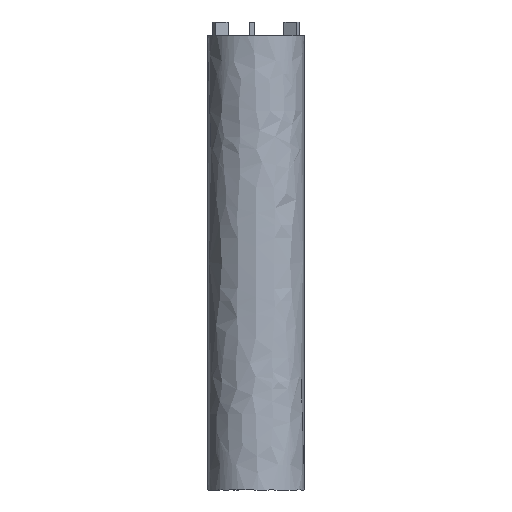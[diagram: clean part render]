
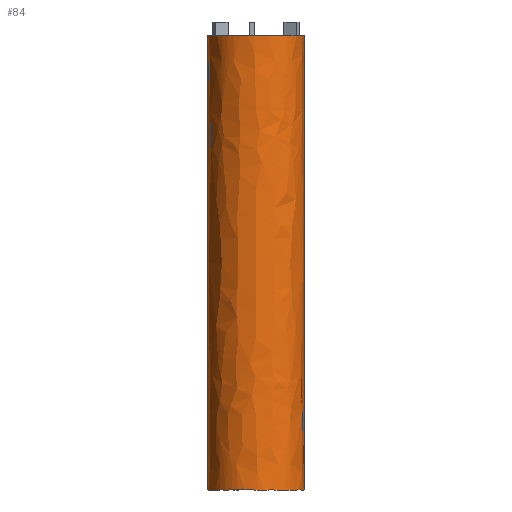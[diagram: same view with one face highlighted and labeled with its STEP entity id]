
A CAD part, front view. The second image highlights one B-rep face of the part: STEP entity #84.
In plain terms, the highlighted free-form (B-spline) face has degree [2, 2] with [5, 7] control points.
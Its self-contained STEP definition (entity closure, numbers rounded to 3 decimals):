
#84=ADVANCED_FACE('',(#132),#670,.T.);
#132=FACE_OUTER_BOUND('',#180,.T.);
#180=EDGE_LOOP('',(#242,#243,#244,#245));
#242=ORIENTED_EDGE('',*,*,#414,.F.);
#243=ORIENTED_EDGE('',*,*,#417,.T.);
#244=ORIENTED_EDGE('',*,*,#426,.F.);
#245=ORIENTED_EDGE('',*,*,#424,.F.);
#414=EDGE_CURVE('',#606,#612,#578,.T.);
#417=EDGE_CURVE('',#606,#609,#581,.T.);
#424=EDGE_CURVE('',#612,#613,#587,.T.);
#426=EDGE_CURVE('',#613,#609,#589,.T.);
#578=(
BOUNDED_CURVE()
B_SPLINE_CURVE(2,(#958,#959,#960,#961,#962),.UNSPECIFIED.,.F.,.F.)
B_SPLINE_CURVE_WITH_KNOTS((3,2,3),(-219.911,-164.934,
-109.956),.UNSPECIFIED.)
CURVE()
GEOMETRIC_REPRESENTATION_ITEM()
RATIONAL_B_SPLINE_CURVE((1.,0.707,1.,0.707,1.))
REPRESENTATION_ITEM('')
);
#581=(
BOUNDED_CURVE()
B_SPLINE_CURVE(2,(#971,#972,#973),.UNSPECIFIED.,.F.,.F.)
B_SPLINE_CURVE_WITH_KNOTS((3,3),(73.024,397.142),
 .UNSPECIFIED.)
CURVE()
GEOMETRIC_REPRESENTATION_ITEM()
RATIONAL_B_SPLINE_CURVE((1.,1.,1.))
REPRESENTATION_ITEM('')
);
#587=(
BOUNDED_CURVE()
B_SPLINE_CURVE(2,(#999,#1000,#1001),.UNSPECIFIED.,.F.,.F.)
B_SPLINE_CURVE_WITH_KNOTS((3,3),(73.024,397.142),
 .UNSPECIFIED.)
CURVE()
GEOMETRIC_REPRESENTATION_ITEM()
RATIONAL_B_SPLINE_CURVE((1.,1.,1.))
REPRESENTATION_ITEM('')
);
#589=(
BOUNDED_CURVE()
B_SPLINE_CURVE(2,(#1007,#1008,#1009,#1010,#1011),.UNSPECIFIED.,.F.,.F.)
B_SPLINE_CURVE_WITH_KNOTS((3,2,3),(109.956,164.934,219.911),
 .UNSPECIFIED.)
CURVE()
GEOMETRIC_REPRESENTATION_ITEM()
RATIONAL_B_SPLINE_CURVE((1.,0.707,1.,0.707,1.))
REPRESENTATION_ITEM('')
);
#606=VERTEX_POINT('',#950);
#609=VERTEX_POINT('',#953);
#612=VERTEX_POINT('',#956);
#613=VERTEX_POINT('',#957);
#670=(
BOUNDED_SURFACE()
B_SPLINE_SURFACE(2,2,((#905,#906,#907,#908,#909,#910,#911),(#912,#913,#914,
#915,#916,#917,#918),(#919,#920,#921,#922,#923,#924,#925),(#926,#927,#928,
#929,#930,#931,#932),(#933,#934,#935,#936,#937,#938,#939)),
 .UNSPECIFIED.,.F.,.F.,.F.)
B_SPLINE_SURFACE_WITH_KNOTS((3,2,3),(3,2,2,3),(109.956,164.934,
219.911),(33.,66.,69.142,397.142),
 .UNSPECIFIED.)
GEOMETRIC_REPRESENTATION_ITEM()
RATIONAL_B_SPLINE_SURFACE(((1.,1.,1.,0.707,1.,1.,1.),(0.707,
0.707,0.707,0.5,0.707,0.707,
0.707),(1.,1.,1.,0.707,1.,1.,1.),(0.707,
0.707,0.707,0.5,0.707,0.707,
0.707),(1.,1.,1.,0.707,1.,1.,1.)))
REPRESENTATION_ITEM('')
SURFACE()
);
#905=CARTESIAN_POINT('',(3653.403,1733.407,-170.));
#906=CARTESIAN_POINT('',(3636.903,1733.407,-170.));
#907=CARTESIAN_POINT('',(3620.403,1733.407,-170.));
#908=CARTESIAN_POINT('',(3618.403,1733.407,-170.));
#909=CARTESIAN_POINT('',(3618.403,1733.407,-168.));
#910=CARTESIAN_POINT('',(3618.403,1733.407,1.));
#911=CARTESIAN_POINT('',(3618.403,1733.407,165.));
#912=CARTESIAN_POINT('',(3653.403,1733.407,-170.));
#913=CARTESIAN_POINT('',(3636.903,1716.907,-170.));
#914=CARTESIAN_POINT('',(3620.403,1700.407,-170.));
#915=CARTESIAN_POINT('',(3618.403,1698.407,-170.));
#916=CARTESIAN_POINT('',(3618.403,1698.407,-168.));
#917=CARTESIAN_POINT('',(3618.403,1698.407,1.));
#918=CARTESIAN_POINT('',(3618.403,1698.407,165.));
#919=CARTESIAN_POINT('',(3653.403,1733.407,-170.));
#920=CARTESIAN_POINT('',(3653.403,1716.907,-170.));
#921=CARTESIAN_POINT('',(3653.403,1700.407,-170.));
#922=CARTESIAN_POINT('',(3653.403,1698.407,-170.));
#923=CARTESIAN_POINT('',(3653.403,1698.407,-168.));
#924=CARTESIAN_POINT('',(3653.403,1698.407,1.));
#925=CARTESIAN_POINT('',(3653.403,1698.407,165.));
#926=CARTESIAN_POINT('',(3653.403,1733.407,-170.));
#927=CARTESIAN_POINT('',(3669.903,1716.907,-170.));
#928=CARTESIAN_POINT('',(3686.403,1700.407,-170.));
#929=CARTESIAN_POINT('',(3688.403,1698.407,-170.));
#930=CARTESIAN_POINT('',(3688.403,1698.407,-168.));
#931=CARTESIAN_POINT('',(3688.403,1698.407,1.));
#932=CARTESIAN_POINT('',(3688.403,1698.407,165.));
#933=CARTESIAN_POINT('',(3653.403,1733.407,-170.));
#934=CARTESIAN_POINT('',(3669.903,1733.407,-170.));
#935=CARTESIAN_POINT('',(3686.403,1733.407,-170.));
#936=CARTESIAN_POINT('',(3688.403,1733.407,-170.));
#937=CARTESIAN_POINT('',(3688.403,1733.407,-168.));
#938=CARTESIAN_POINT('',(3688.403,1733.407,1.));
#939=CARTESIAN_POINT('',(3688.403,1733.407,165.));
#950=CARTESIAN_POINT('',(3688.403,1733.407,-164.));
#953=CARTESIAN_POINT('',(3688.403,1733.407,165.));
#956=CARTESIAN_POINT('',(3618.403,1733.407,-164.));
#957=CARTESIAN_POINT('',(3618.403,1733.407,165.));
#958=CARTESIAN_POINT('',(3688.403,1733.407,-164.));
#959=CARTESIAN_POINT('',(3688.403,1698.407,-164.));
#960=CARTESIAN_POINT('',(3653.403,1698.407,-164.));
#961=CARTESIAN_POINT('',(3618.403,1698.407,-164.));
#962=CARTESIAN_POINT('',(3618.403,1733.407,-164.));
#971=CARTESIAN_POINT('',(3688.403,1733.407,-164.));
#972=CARTESIAN_POINT('',(3688.403,1733.407,2.941));
#973=CARTESIAN_POINT('',(3688.403,1733.407,165.));
#999=CARTESIAN_POINT('',(3618.403,1733.407,-164.));
#1000=CARTESIAN_POINT('',(3618.403,1733.407,2.941));
#1001=CARTESIAN_POINT('',(3618.403,1733.407,165.));
#1007=CARTESIAN_POINT('',(3618.403,1733.407,165.));
#1008=CARTESIAN_POINT('',(3618.403,1698.407,165.));
#1009=CARTESIAN_POINT('',(3653.403,1698.407,165.));
#1010=CARTESIAN_POINT('',(3688.403,1698.407,165.));
#1011=CARTESIAN_POINT('',(3688.403,1733.407,165.));
